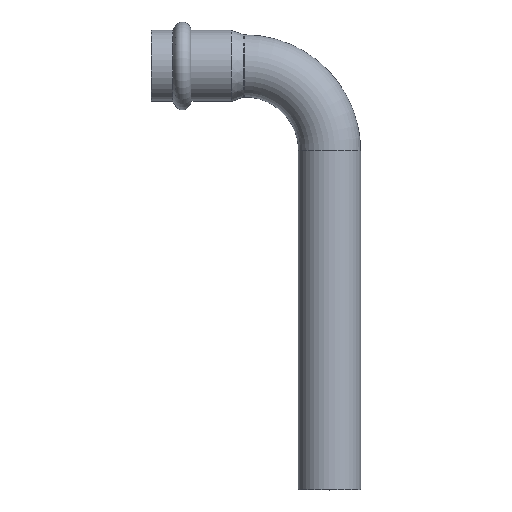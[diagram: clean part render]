
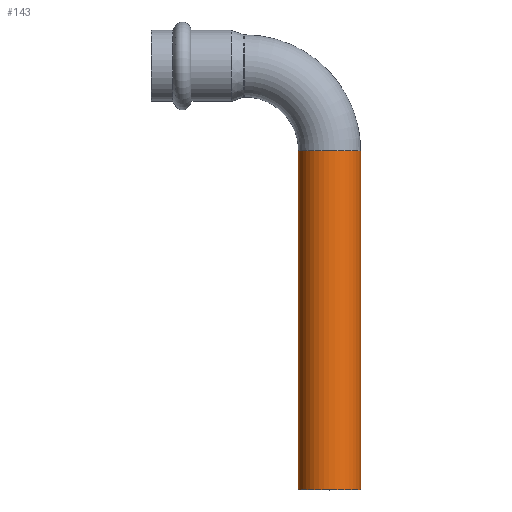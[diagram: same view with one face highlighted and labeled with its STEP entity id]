
A CAD part, top view. The second image highlights one B-rep face of the part: STEP entity #143.
In plain terms, the highlighted cylindrical face has radius 11 mm (diameter 22 mm), a full revolution.
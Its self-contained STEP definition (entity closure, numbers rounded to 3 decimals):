
#116=CARTESIAN_POINT('',(30.0,-30.0,0.0));
#117=DIRECTION('',(0.0,-1.0,0.0));
#118=DIRECTION('',(0.0,0.0,1.0));
#119=AXIS2_PLACEMENT_3D('',#116,#117,#118);
#120=CYLINDRICAL_SURFACE('',#119,11.0);
#121=CARTESIAN_POINT('',(30.0,-150.0,-11.0));
#122=VERTEX_POINT('',#121);
#123=CARTESIAN_POINT('',(30.0,-150.0,0.0));
#124=DIRECTION('',(0.0,1.0,0.0));
#125=DIRECTION('',(0.0,0.0,1.0));
#126=AXIS2_PLACEMENT_3D('',#123,#124,#125);
#127=CIRCLE('',#126,11.0);
#128=EDGE_CURVE('',#122,#122,#127,.T.);
#129=ORIENTED_EDGE('',*,*,#128,.T.);
#130=EDGE_LOOP('',(#129));
#131=FACE_OUTER_BOUND('',#130,.T.);
#132=CARTESIAN_POINT('',(30.0,-30.,-11.0));
#133=VERTEX_POINT('',#132);
#134=CARTESIAN_POINT('',(30.0,-30.0,0.0));
#135=DIRECTION('',(0.0,1.0,0.0));
#136=DIRECTION('',(0.0,0.0,1.0));
#137=AXIS2_PLACEMENT_3D('',#134,#135,#136);
#138=CIRCLE('',#137,11.0);
#139=EDGE_CURVE('',#133,#133,#138,.T.);
#140=ORIENTED_EDGE('',*,*,#139,.F.);
#141=EDGE_LOOP('',(#140));
#142=FACE_BOUND('',#141,.T.);
#143=ADVANCED_FACE('',(#131,#142),#120,.T.);
